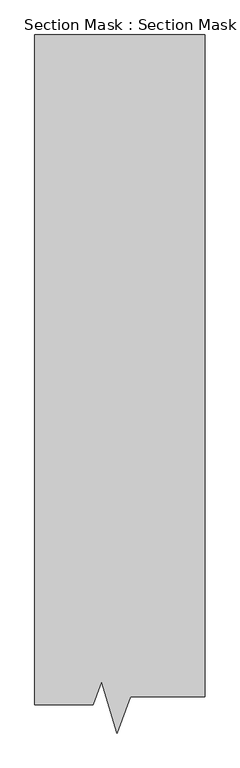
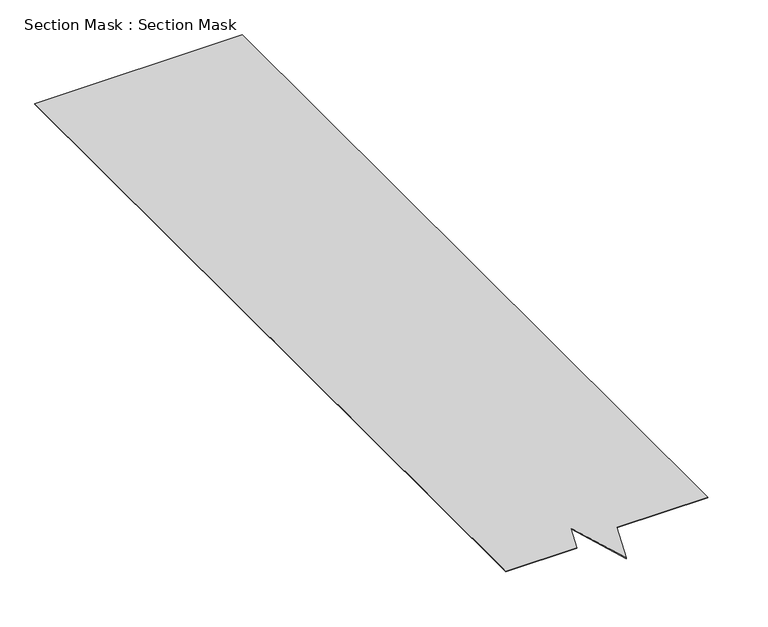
"""IFC4 building model written with IfcOpenShell, lengths in millimetres: proxy geometry, Section Mask : Section Mask."""

from ifc_helpers import new_model, si_unit, frame, origin, place, context, project, spatial, polyline, outline, extrude, source, transform, mapped, element, save


def section_mask_section_mask_bcd5d674(model_context):
    return source(origin(), model_context, "Body", "SweptSolid", [
        extrude(outline(polyline([(3354.1063701, -201.2374623), (3194.2264244, -201.2374623), (3194.2264244, 1632.9500983), (3660.9103708, 1632.9500983), (3660.9103708, -180.3889907), (3456.7402708, -180.3889907), (3420.1234141, -279.5518324), (3377.1233096, -138.9048283), (3354.1063701, -201.2374623)])), frame((0.0, 0.0, 51.3773345), z_axis=(0.0, 0.0, 1.0), x_axis=(1.0, 0.0, 0.0)), (0.0, 0.0, 1.0), 1.469501),
    ])


if __name__ == "__main__":
    model = new_model("IFC4")
    model_context = context("Model", 3, world=origin())
    ifc_project = project(units=[si_unit("LENGTHUNIT", "METRE", prefix="MILLI")], contexts=[model_context])
    site = spatial("IfcSite", under=ifc_project)
    building = spatial("IfcBuilding", under=site)
    placement = place(None, origin())
    section_mask_section_mask_shape = section_mask_section_mask_bcd5d674(model_context)
    element("IfcBuildingElementProxy", 1, Name="Section Mask : Section Mask", ObjectType="Section Mask : Section Mask", at=placement, inside=building, context=model_context, shape_type="MappedRepresentation", body=[
        mapped(section_mask_section_mask_shape, transform((0.0, 0.0, 0.0), x_axis=(1.0, 0.0, 0.0), y_axis=(0.0, 1.0, 0.0), z_axis=(0.0, 0.0, 1.0))),
    ])
    save(model, "model.ifc")
